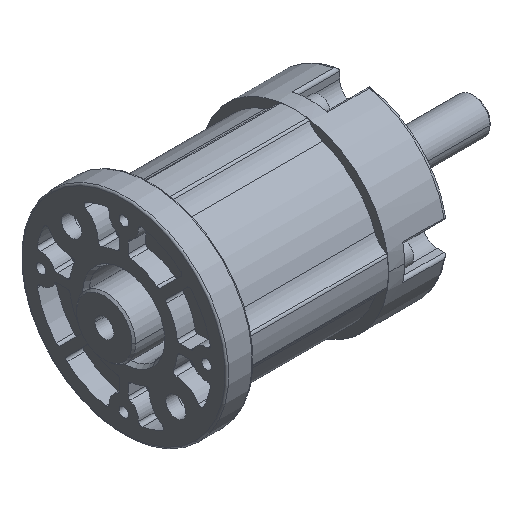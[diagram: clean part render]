
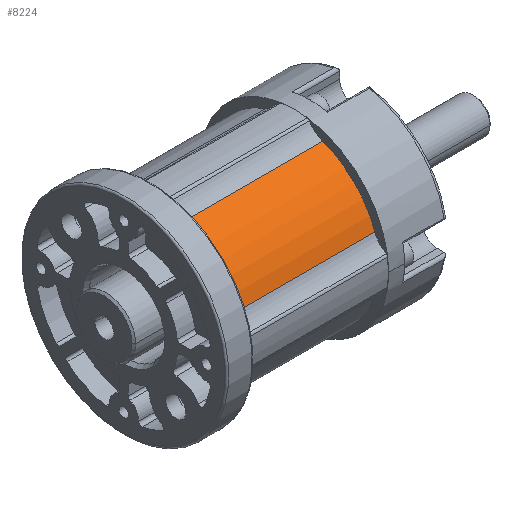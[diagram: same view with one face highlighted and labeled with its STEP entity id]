
A CAD part, isometric view. The second image highlights one B-rep face of the part: STEP entity #8224.
In plain terms, the highlighted cylindrical face has radius 14.5 mm (diameter 29 mm), a partial arc.
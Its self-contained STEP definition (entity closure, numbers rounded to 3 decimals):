
#6937=CARTESIAN_POINT('',(0.,0.,0.));
#6938=DIRECTION('',(1.,0.,0.));
#6939=DIRECTION('',(0.,0.33,-0.944));
#6940=AXIS2_PLACEMENT_3D('',#6937,#6938,#6939);
#7287=CARTESIAN_POINT('',(24.3,0.,0.));
#7288=DIRECTION('',(1.,0.,0.));
#7289=DIRECTION('',(0.,0.33,-0.944));
#7290=AXIS2_PLACEMENT_3D('',#7287,#7288,#7289);
#7514=DIRECTION('',(1.,0.,0.));
#7515=VECTOR('',#7514,24.3);
#7516=CARTESIAN_POINT('',(0.,13.686,-4.791));
#7517=LINE('',#7516,#7515);
#7521=DIRECTION('',(1.,0.,0.));
#7522=VECTOR('',#7521,24.3);
#7523=CARTESIAN_POINT('',(0.,4.791,-13.686));
#7524=LINE('',#7523,#7522);
#7611=CARTESIAN_POINT('',(0.,4.791,-13.686));
#7612=VERTEX_POINT('',#7611);
#7613=CARTESIAN_POINT('',(0.,13.686,-4.791));
#7614=VERTEX_POINT('',#7613);
#7663=CARTESIAN_POINT('',(24.3,4.791,-13.686));
#7664=VERTEX_POINT('',#7663);
#7665=CARTESIAN_POINT('',(24.3,13.686,-4.791));
#7666=VERTEX_POINT('',#7665);
#8212=CARTESIAN_POINT('',(0.,0.,0.));
#8213=DIRECTION('',(1.,0.,0.));
#8214=DIRECTION('',(0.,0.,-1.));
#8215=AXIS2_PLACEMENT_3D('',#8212,#8213,#8214);
#8216=CYLINDRICAL_SURFACE('',#8215,14.5);
#8217=ORIENTED_EDGE('',*,*,#7748,.F.);
#8219=ORIENTED_EDGE('',*,*,#8218,.T.);
#8220=ORIENTED_EDGE('',*,*,#7878,.T.);
#8221=ORIENTED_EDGE('',*,*,#8205,.F.);
#8222=EDGE_LOOP('',(#8217,#8219,#8220,#8221));
#8223=FACE_OUTER_BOUND('',#8222,.F.);
#6941=CIRCLE('',#6940,14.5);
#7291=CIRCLE('',#7290,14.5);
#7748=EDGE_CURVE('',#7612,#7614,#6941,.T.);
#7878=EDGE_CURVE('',#7664,#7666,#7291,.T.);
#8205=EDGE_CURVE('',#7614,#7666,#7517,.T.);
#8218=EDGE_CURVE('',#7612,#7664,#7524,.T.);
#8224=ADVANCED_FACE('',(#8223),#8216,.T.);
